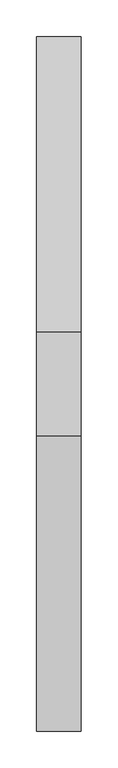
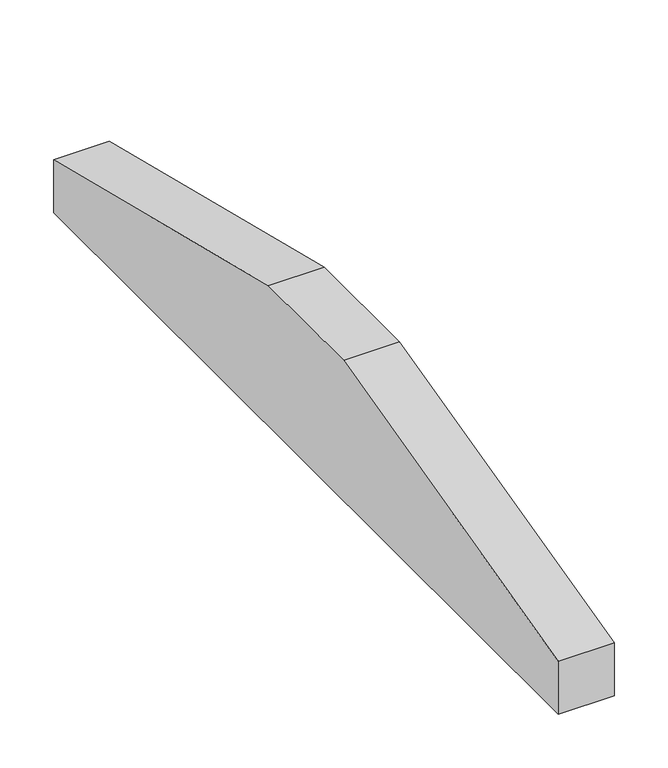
"""IFC4 building model written with IfcOpenShell, lengths in millimetres: proxy geometry, Modelos genéricos 163 : Modelos genéricos 144."""

from ifc_helpers import new_model, si_unit, frame, origin, place, context, project, spatial, polyline, outline, extrude, source, transform, mapped, element, save


def generic_models_c57cda05(model_context):
    return source(origin(), model_context, "Body", "SweptSolid", [
        extrude(outline(polyline([(2018.6238165, 4209.7515316), (2418.6238165, 4110.0203305), (2418.6238165, 4049.7515316), (1478.6238165, 4049.7515316), (1478.6238165, 4110.0203305), (1878.6238165, 4209.7515316), (2018.6238165, 4209.7515316)])), frame((51563.4472467, 0.0, 0.0), z_axis=(1.0, 0.0, 0.0), x_axis=(0.0, 1.0, 0.0)), (0.0, 0.0, 1.0), 60.0),
    ])


if __name__ == "__main__":
    model = new_model("IFC4")
    model_context = context("Model", 3, world=origin())
    ifc_project = project(units=[si_unit("LENGTHUNIT", "METRE", prefix="MILLI")], contexts=[model_context])
    site = spatial("IfcSite", under=ifc_project)
    building = spatial("IfcBuilding", under=site)
    placement = place(None, origin())
    generic_models_shape = generic_models_c57cda05(model_context)
    element("IfcBuildingElementProxy", 1, Name="Modelos genéricos 163 : Modelos genéricos 144", ObjectType="Modelos genéricos 163 : Modelos genéricos 144", at=placement, inside=building, context=model_context, shape_type="MappedRepresentation", body=[
        mapped(generic_models_shape, transform((0.0, 0.0, 0.0), x_axis=(1.0, 0.0, 0.0), y_axis=(0.0, 1.0, 0.0), z_axis=(0.0, 0.0, 1.0))),
    ])
    save(model, "model.ifc")
